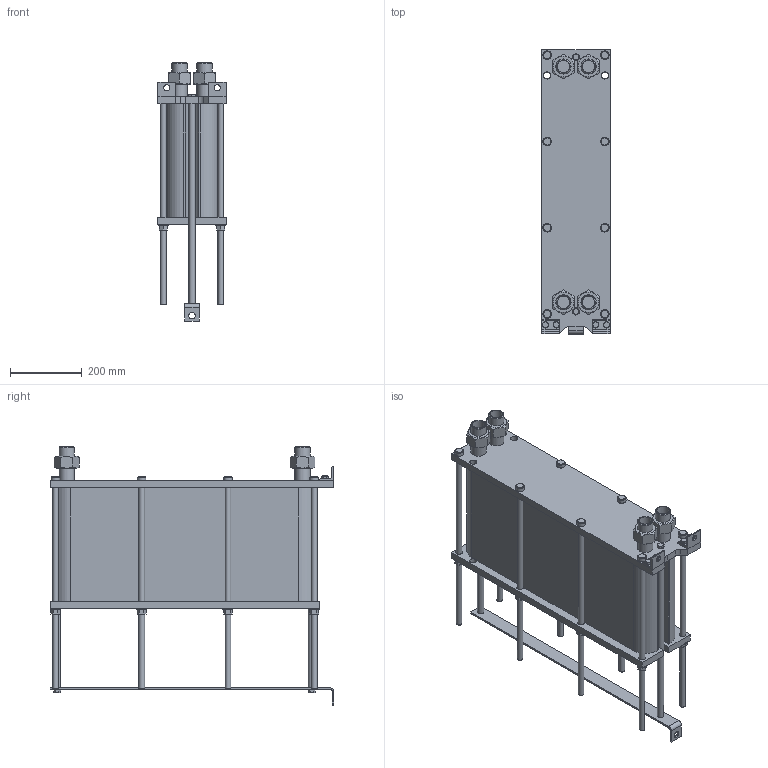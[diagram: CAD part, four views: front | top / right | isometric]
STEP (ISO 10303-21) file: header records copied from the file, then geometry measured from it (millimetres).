
FILE_DESCRIPTION(/* description */ (''),/* implementation_level */ '2;1');
FILE_NAME(/* name */ 'C:\Users\zhuro\Desktop\ENCO\TO\ЭН-008\ЭН-0,5-008-102-1.stp',/* time_stamp */ '2022-06-06T10:55:03+03:00',/* author */ ('zhuro'),/* organization */ (''),/* preprocessor_version */ 'ST-DEVELOPER v18.1',/* originating_system */ 'Autodesk Inventor 2022',/* authorisation */ '');
FILE_SCHEMA (('AUTOMOTIVE_DESIGN { 1 0 10303 214 3 1 1 }'));
Length unit declared in the file: millimetre
Products named in the file (1): ЭН-0,5-008-102-1
Bounding box: 190 x 790 x 718.6 mm (x, y, z)
Volume: 39211568 mm3; surface area: 2038442.5 mm2
Topology: 40 solids, 40 shells, 428 faces, 924 edges, 606 vertices
Faces by surface type: plane 273, cylinder 109, cone 40, torus 6
Full cylindrical faces by diameter (mm): 12 x6, 14 x2, 16 x20, 17 x8, 18 x19, 20 x5, 24 x8, 28 x8, 34.3 x8, 42.3 x8
Entity records: 15843 total; most frequent: CARTESIAN_POINT 5991, DIRECTION 1984, ORIENTED_EDGE 1848, EDGE_CURVE 924, AXIS2_PLACEMENT_3D 715, VERTEX_POINT 606, LINE 554, VECTOR 554
